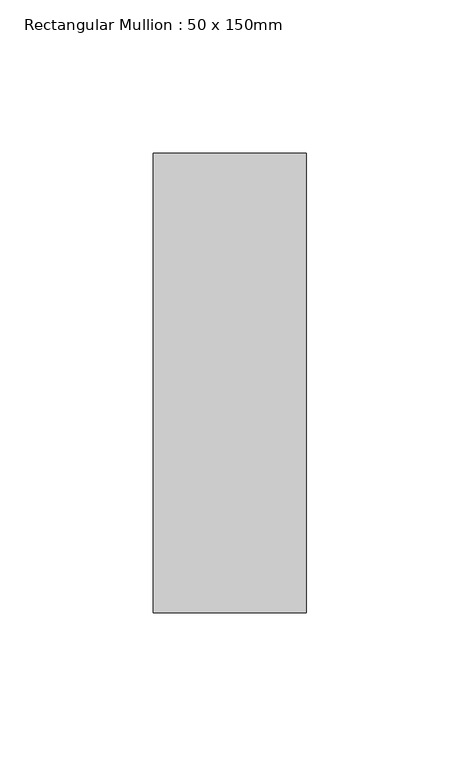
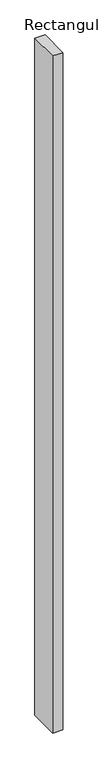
"""IFC4 building model written with IfcOpenShell, lengths in millimetres: member geometry, Rectangular Mullion : 50 x 150mm."""

from ifc_helpers import new_model, si_unit, frame, origin, place, context, project, spatial, polyline, outline, extrude, source, transform, mapped, element, save


def rectangular_mullion_50_x_150mm_06e5b0ac(model_context):
    return source(origin(), model_context, "Body", "SweptSolid", [
        extrude(outline(polyline([(0.0, 75.0), (0.0, -75.0), (-50.0, -75.0), (-50.0, 75.0), (0.0, 75.0)])), frame((0.0, 0.0, -3500.0), z_axis=(0.0, 0.0, 1.0), x_axis=(1.0, 0.0, 0.0)), (0.0, 0.0, 1.0), 3500.0),
    ])


if __name__ == "__main__":
    model = new_model("IFC4")
    model_context = context("Model", 3, world=origin())
    ifc_project = project(units=[si_unit("LENGTHUNIT", "METRE", prefix="MILLI")], contexts=[model_context])
    site = spatial("IfcSite", under=ifc_project)
    building = spatial("IfcBuilding", under=site)
    placement = place(None, origin())
    rectangular_mullion_50_x_150mm_shape = rectangular_mullion_50_x_150mm_06e5b0ac(model_context)
    element("IfcMember", 1, ObjectType="Rectangular Mullion : 50 x 150mm", at=placement, inside=building, context=model_context, shape_type="MappedRepresentation", body=[
        mapped(rectangular_mullion_50_x_150mm_shape, transform((0.0, 0.0, 0.0), x_axis=(1.0, 0.0, 0.0), y_axis=(0.0, 1.0, 0.0), z_axis=(0.0, 0.0, 1.0))),
    ])
    save(model, "model.ifc")
